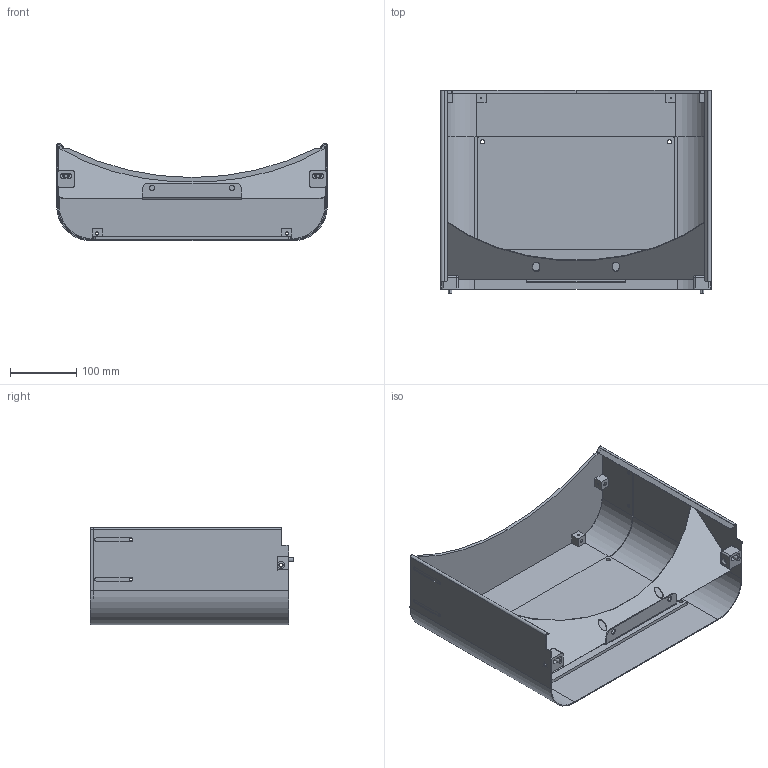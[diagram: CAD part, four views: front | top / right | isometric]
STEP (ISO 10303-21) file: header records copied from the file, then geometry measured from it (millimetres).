
FILE_DESCRIPTION (( 'STEP AP214' ), '1' );
FILE_NAME ('GM000638.STEP', '2021-08-24T13:17:49', ( '' ), ( '' ), 'SwSTEP 2.0', 'SolidWorks 2020', '' );
FILE_SCHEMA (( 'AUTOMOTIVE_DESIGN' ));
Length unit declared in the file: millimetre
Products named in the file (8): PD002605; PD002609; GM000638; PD002610; CM000374; PD002604; PD002612; PD002608
Assembly tree (11 placements, depth 2):
  GM000638
    PD002608
    PD002605
    CM000374  x2
    PD002612
    PD002609
    PD002610
    PD002604  x4
Bounding box: 408 x 307.52 x 147.25 mm (x, y, z)
Volume: 846281.4 mm3; surface area: 686455.4 mm2
Topology: 15 solids, 15 shells, 529 faces, 1285 edges, 774 vertices
Faces by surface type: cone 180, plane 160, cylinder 157, bspline 32
Entity records: 11748 total; most frequent: CARTESIAN_POINT 2349, DIRECTION 1930, ORIENTED_EDGE 1752, EDGE_CURVE 876, AXIS2_PLACEMENT_3D 731, VERTEX_POINT 536, LINE 468, VECTOR 468
